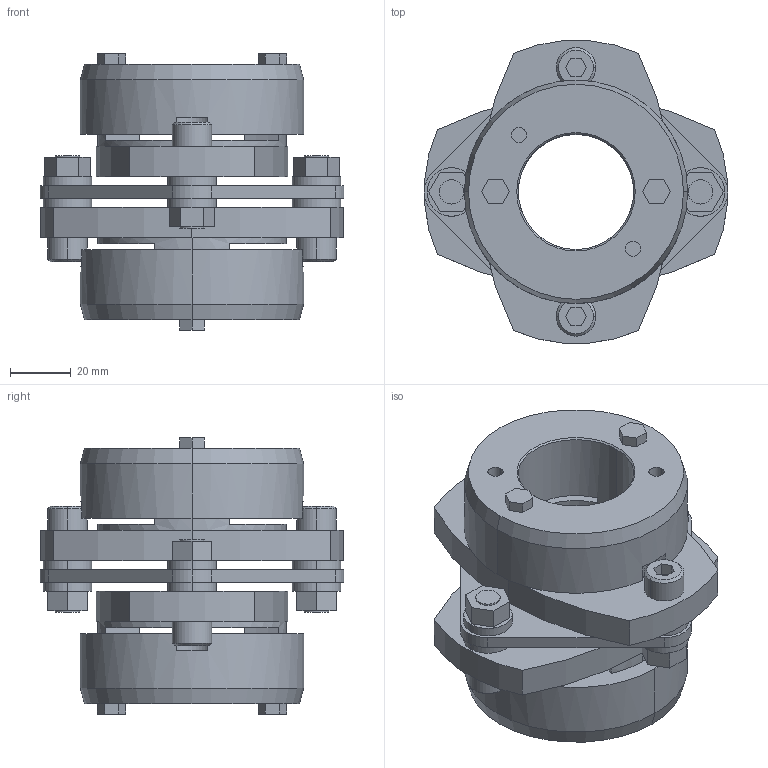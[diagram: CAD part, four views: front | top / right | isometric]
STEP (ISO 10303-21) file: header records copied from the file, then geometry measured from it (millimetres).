
FILE_DESCRIPTION((''),'2;1');
FILE_NAME('LCS-100T7-38×38.stp','2011-09-09T08:27:18',(''),(''),'AutoCAD STEP 2000i','AutoCAD 2000i',', , ');
FILE_SCHEMA(('CONFIG_CONTROL_DESIGN'));
Length unit declared in the file: millimetre
Products named in the file (10): LCS-100T7-38×38; 忣兜1; LC100T7-T038-1; LC100T7-T038; LC100T7-T035; LC100T7-T030; LC100T7-T025; LC100T7-T022-1; LC100T7-T022; LCS100-ITA
Assembly tree (9 placements, depth 2):
  LCS-100T7-38×38
    忣兜1
    LC100T7-T038-1
    LC100T7-T038
    LC100T7-T035
    LC100T7-T030
    LC100T7-T025
    LC100T7-T022-1
    LC100T7-T022
    LCS100-ITA
Bounding box: 100 x 99.93 x 91 mm (x, y, z)
Volume: 264797.1 mm3; surface area: 65916 mm2
Topology: 1 solids, 1 shells, 226 faces, 556 edges, 364 vertices
Faces by surface type: plane 122, cylinder 84, cone 20
Entity records: 6969 total; most frequent: DIRECTION 1240, CARTESIAN_POINT 1156, ORIENTED_EDGE 1112, EDGE_CURVE 556, AXIS2_PLACEMENT_3D 448, VERTEX_POINT 364, VECTOR 344, LINE 344
